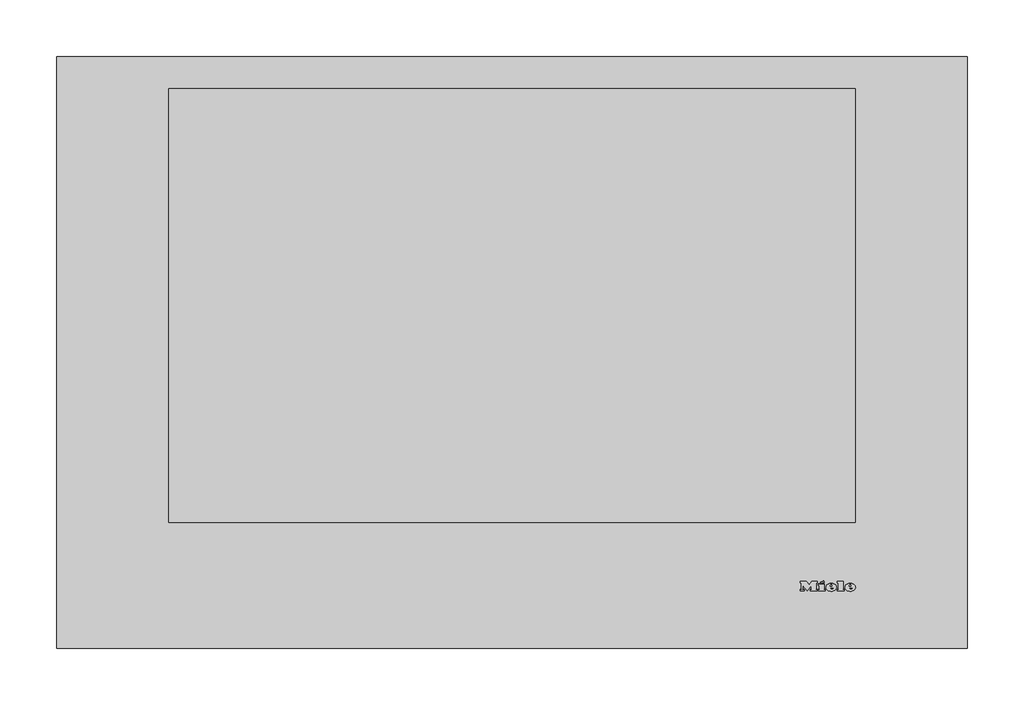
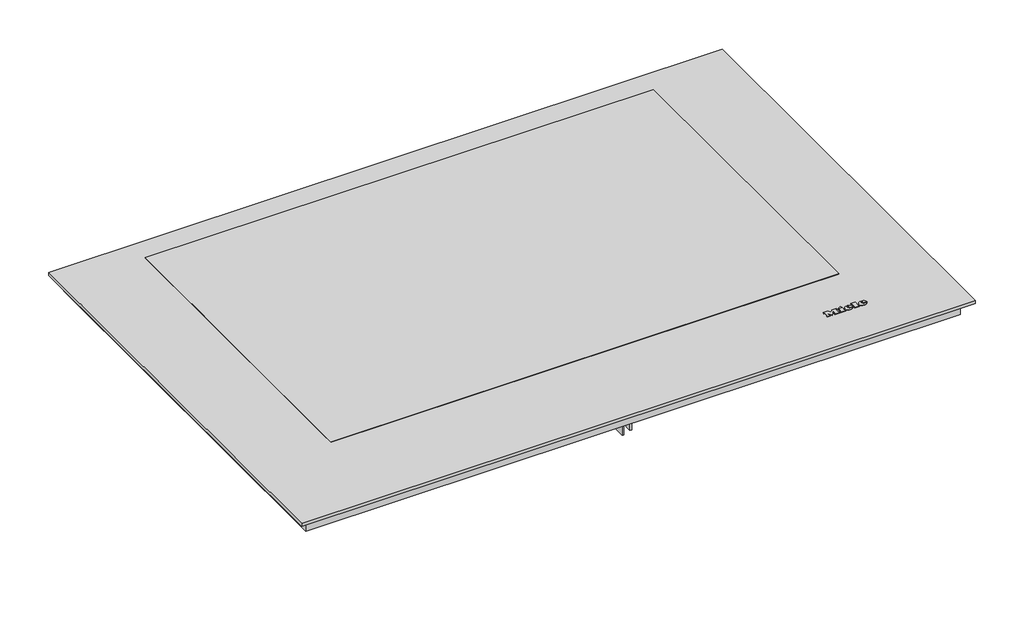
# Not in any storey: 1 proxy.
"""IFC4 building model written with IfcOpenShell, lengths in millimetres."""

from ifc_helpers import new_model, si_unit, origin, place, context, project, spatial, transform, mapped, element, save
from components import specialty_equipment_b0dcab6c

model = new_model("IFC4")

# Units and contexts
model_context = context("Model", 3, world=origin())
ifc_project = project(units=[si_unit("LENGTHUNIT", "METRE", prefix="MILLI")], contexts=[model_context])

# Site, building
site = spatial("IfcSite", under=ifc_project)
building = spatial("IfcBuilding", under=site)

# Proxy
placement = place(None, origin())
specialty_equipment_shape = specialty_equipment_b0dcab6c(model_context)
element("IfcBuildingElementProxy", 1, Name="11249900_I_KM7677FL : 26767770_I_11249900_KM7677FL", ObjectType="11249900_I_KM7677FL : 26767770_I_11249900_KM7677FL", at=placement, inside=building, context=model_context, shape_type="MappedRepresentation", body=[
    mapped(specialty_equipment_shape, transform((0.0, 0.0, 0.0), x_axis=(1.0, 0.0, 0.0), y_axis=(0.0, 1.0, 0.0), z_axis=(0.0, 0.0, 1.0))),
])

save(model, "model.ifc")
